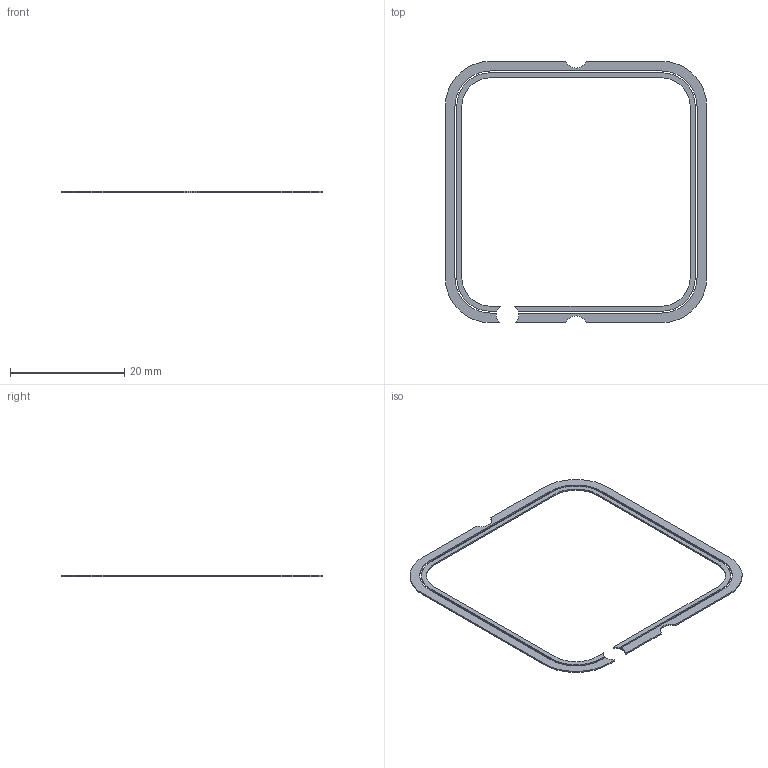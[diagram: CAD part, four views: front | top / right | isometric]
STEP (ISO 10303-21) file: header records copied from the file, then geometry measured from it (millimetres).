
FILE_DESCRIPTION(('Open CASCADE Model'),'2;1');
FILE_NAME('Grille_bond_reference','2026-09-21T22:33:45',('Author'),( 'Open CASCADE'),'Open CASCADE STEP processor 7.9','build123d', 'Unknown');
FILE_SCHEMA(('AUTOMOTIVE_DESIGN { 1 0 10303 214 1 1 1 1 }'));
Length unit declared in the file: millimetre
Products named in the file (2): Grille_bond_reference
Assembly tree (1 placements, depth 2):
  Grille_bond_reference
    Grille_bond_reference
Bounding box: 45.8 x 45.8 x 0.26 mm (x, y, z)
Volume: 104.7 mm3; surface area: 970.1 mm2
Topology: 2 solids, 2 shells, 48 faces, 134 edges, 90 vertices
Faces by surface type: plane 26, cylinder 22
Entity records: 1628 total; most frequent: DIRECTION 280, CARTESIAN_POINT 274, ORIENTED_EDGE 268, EDGE_CURVE 134, AXIS2_PLACEMENT_3D 96, VERTEX_POINT 90, LINE 88, VECTOR 88
